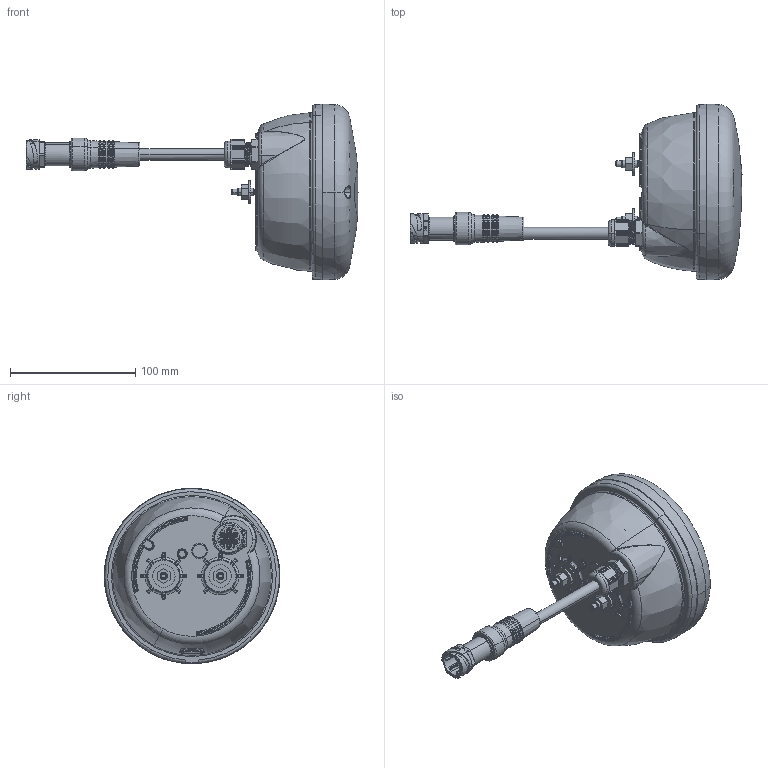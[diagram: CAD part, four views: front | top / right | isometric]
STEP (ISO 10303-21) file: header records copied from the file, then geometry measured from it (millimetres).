
FILE_DESCRIPTION(('CATIA V5 STEP Exchange','CAx-IF Rec.Pracs.--- Model Styling and Organization---1.5--- 2016-08-15','CAx-IF Rec.Pracs.---Supplemental Geometry---1.0---2011-11-01','CAx-IF Rec.Pracs.--- Composite Materials ---1.1---2010-07-15'),'2;1');
FILE_NAME('E:\tmp\ddx\2011206\HELLA_3D_data_Hybrid_and_full-LED_rear_lamp_013-155.stp','2022-01-18T07:26:02+00:00',('none'),('none'),'CATIA Version 5-6 Release 2020 SP3 HF9','CATIA V5 STEP AP214 Edition 3 v2','none');
FILE_SCHEMA(('AUTOMOTIVE_DESIGN { 1 0 10303 214 3 1 1 1 }'));
Products named in the file (1): 10002986904_D10_001
Bounding box: 265.12 x 140.24 x 140.14 mm (x, y, z)
Volume: 476068.8 mm3; surface area: 135501.1 mm2
Topology: 11 solids, 19 shells, 3107 faces, 7812 edges, 4644 vertices
Faces by surface type: plane 829, bspline 818, cylinder 650, torus 398, cone 247, sphere 130, extrusion 27, revolution 8
Entity records: 132110 total; most frequent: CARTESIAN_POINT 68601, ORIENTED_EDGE 15340, DIRECTION 8839, EDGE_CURVE 7670, VERTEX_POINT 4644, AXIS2_PLACEMENT_3D 4204, EDGE_LOOP 3210, ADVANCED_FACE 3107
